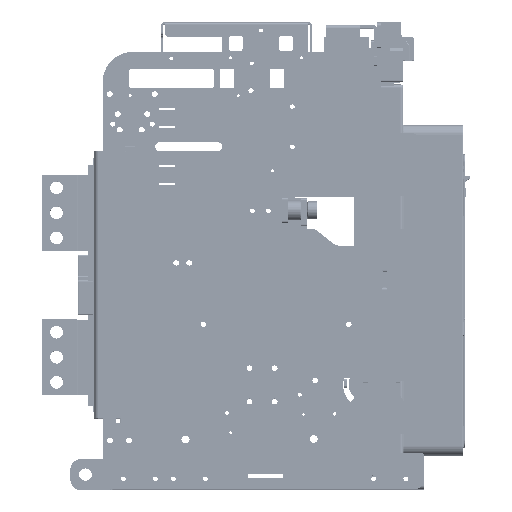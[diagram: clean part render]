
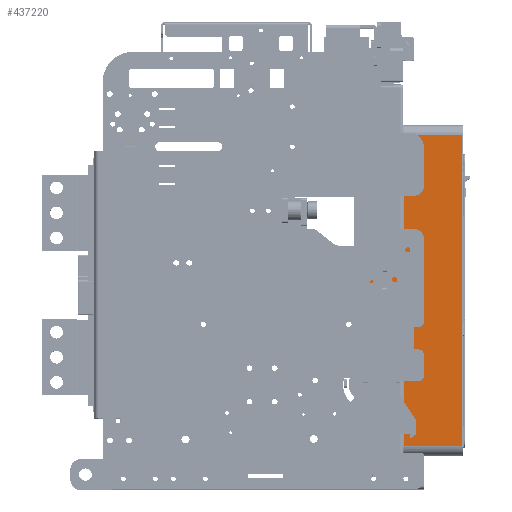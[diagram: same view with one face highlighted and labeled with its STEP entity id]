
A CAD part, top view. The second image highlights one B-rep face of the part: STEP entity #437220.
In plain terms, the highlighted planar face has unit normal (0, 0, 1) as drawn and (-1, 0, 0) by its records, which use the part's own axes.
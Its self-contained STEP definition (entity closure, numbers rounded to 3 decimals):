
#418953=DIRECTION('',(0.,-1.,0.));
#418954=VECTOR('',#418953,310.);
#418955=CARTESIAN_POINT('',(-135.,141.35,108.));
#418956=LINE('',#418955,#418954);
#418957=DIRECTION('',(0.,0.,-1.));
#418958=VECTOR('',#418957,58.);
#418959=CARTESIAN_POINT('',(-135.,-168.65,108.));
#418960=LINE('',#418959,#418958);
#418961=DIRECTION('',(0.,-1.,0.));
#418962=VECTOR('',#418961,156.523);
#418963=CARTESIAN_POINT('',(-135.,-12.127,
50.));
#418964=LINE('',#418963,#418962);
#418965=CARTESIAN_POINT('',(-135.,-6.65,47.));
#418966=CARTESIAN_POINT('',(-134.999,-7.114,
47.43));
#418967=CARTESIAN_POINT('',(-135.,-8.003,
48.247));
#418968=CARTESIAN_POINT('',(-135.,-9.345,
49.224));
#418969=CARTESIAN_POINT('',(-135.,-10.766,
49.861));
#418970=CARTESIAN_POINT('',(-135.,-11.675,
50.));
#418971=CARTESIAN_POINT('',(-135.,-12.127,
50.));
#418973=DIRECTION('',(0.,0.,1.));
#418974=VECTOR('',#418973,34.);
#418975=CARTESIAN_POINT('',(-135.,-6.65,13.));
#418976=LINE('',#418975,#418974);
#418977=DIRECTION('',(0.,0.,1.));
#418978=VECTOR('',#418977,34.);
#418979=CARTESIAN_POINT('',(-135.,-0.25,13.));
#418980=LINE('',#418979,#418978);
#418981=CARTESIAN_POINT('',(-135.,5.227,
50.));
#418982=CARTESIAN_POINT('',(-135.,4.776,
50.));
#418983=CARTESIAN_POINT('',(-135.,3.87,
49.861));
#418984=CARTESIAN_POINT('',(-135.,2.454,
49.229));
#418985=CARTESIAN_POINT('',(-135.001,1.111,
48.254));
#418986=CARTESIAN_POINT('',(-134.999,0.217,
47.433));
#418987=CARTESIAN_POINT('',(-135.,-0.25,47.));
#418989=DIRECTION('',(0.,-1.,0.));
#418990=VECTOR('',#418989,136.123);
#418991=CARTESIAN_POINT('',(-135.,141.35,50.));
#418992=LINE('',#418991,#418990);
#418993=DIRECTION('',(0.,0.,-1.));
#418994=VECTOR('',#418993,58.);
#418995=CARTESIAN_POINT('',(-135.,141.35,108.));
#418996=LINE('',#418995,#418994);
#419257=DIRECTION('',(0.,-1.,0.));
#419258=VECTOR('',#419257,6.4);
#419259=CARTESIAN_POINT('',(-135.,-0.25,13.));
#419260=LINE('',#419259,#419258);
#427350=CARTESIAN_POINT('',(-135.,-0.25,13.));
#427352=VERTEX_POINT('',#427350);
#427355=CARTESIAN_POINT('',(-135.,-6.65,13.));
#427357=VERTEX_POINT('',#427355);
#428675=VERTEX_POINT('',#418981);
#428676=VERTEX_POINT('',#418987);
#428680=CARTESIAN_POINT('',(-135.,141.35,50.));
#428681=VERTEX_POINT('',#428680);
#428716=CARTESIAN_POINT('',(-135.,-168.65,50.));
#428717=VERTEX_POINT('',#428716);
#428720=CARTESIAN_POINT('',(-135.,-12.127,
50.));
#428721=VERTEX_POINT('',#428720);
#428722=VERTEX_POINT('',#418965);
#428728=CARTESIAN_POINT('',(-135.,141.35,108.));
#428730=VERTEX_POINT('',#428728);
#428733=CARTESIAN_POINT('',(-135.,-168.65,108.));
#428734=VERTEX_POINT('',#428733);
#437195=CARTESIAN_POINT('',(-135.,151.35,49.));
#437196=DIRECTION('',(-1.,0.,0.));
#437197=DIRECTION('',(0.,-1.,0.));
#437198=AXIS2_PLACEMENT_3D('',#437195,#437196,#437197);
#437199=PLANE('',#437198);
#437200=ORIENTED_EDGE('',*,*,#437077,.T.);
#437202=ORIENTED_EDGE('',*,*,#437201,.T.);
#437204=ORIENTED_EDGE('',*,*,#437203,.F.);
#437206=ORIENTED_EDGE('',*,*,#437205,.F.);
#437208=ORIENTED_EDGE('',*,*,#437207,.F.);
#437210=ORIENTED_EDGE('',*,*,#437209,.F.);
#437212=ORIENTED_EDGE('',*,*,#437211,.T.);
#437214=ORIENTED_EDGE('',*,*,#437213,.F.);
#437216=ORIENTED_EDGE('',*,*,#437215,.F.);
#437217=ORIENTED_EDGE('',*,*,#437187,.F.);
#437218=EDGE_LOOP('',(#437200,#437202,#437204,#437206,#437208,#437210,#437212,
#437214,#437216,#437217));
#437219=FACE_OUTER_BOUND('',#437218,.F.);
#437220=ADVANCED_FACE('',(#437219),#437199,.T.);
#418972=B_SPLINE_CURVE_WITH_KNOTS('',3,(#418965,#418966,#418967,#418968,#418969,
#418970,#418971),.UNSPECIFIED.,.F.,.F.,(4,1,1,1,4),(0.,0.25,0.5,0.75,
1.),.UNSPECIFIED.);
#418988=B_SPLINE_CURVE_WITH_KNOTS('',3,(#418981,#418982,#418983,#418984,#418985,
#418986,#418987),.UNSPECIFIED.,.F.,.F.,(4,1,1,1,4),(0.,0.25,0.5,0.75,
1.),.UNSPECIFIED.);
#437077=EDGE_CURVE('',#428730,#428734,#418956,.T.);
#437187=EDGE_CURVE('',#428730,#428681,#418996,.T.);
#437201=EDGE_CURVE('',#428734,#428717,#418960,.T.);
#437203=EDGE_CURVE('',#428721,#428717,#418964,.T.);
#437205=EDGE_CURVE('',#428722,#428721,#418972,.T.);
#437207=EDGE_CURVE('',#427357,#428722,#418976,.T.);
#437209=EDGE_CURVE('',#427352,#427357,#419260,.T.);
#437211=EDGE_CURVE('',#427352,#428676,#418980,.T.);
#437213=EDGE_CURVE('',#428675,#428676,#418988,.T.);
#437215=EDGE_CURVE('',#428681,#428675,#418992,.T.);
